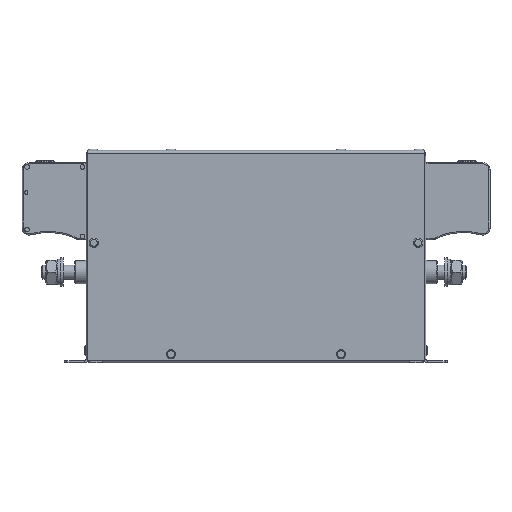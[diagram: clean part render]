
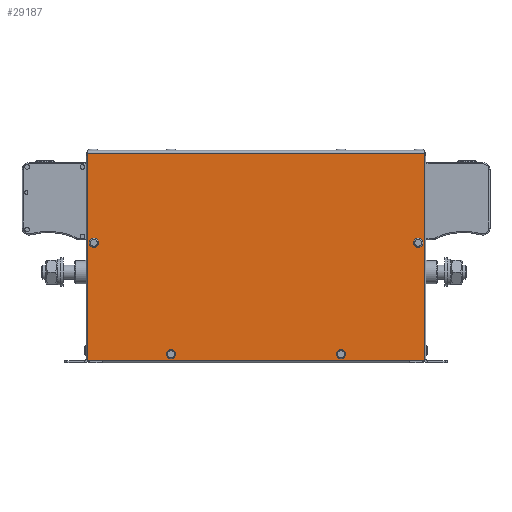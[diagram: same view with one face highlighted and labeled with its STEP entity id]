
A CAD part, front view. The second image highlights one B-rep face of the part: STEP entity #29187.
In plain terms, the highlighted planar face has unit normal (0, -1, 0).
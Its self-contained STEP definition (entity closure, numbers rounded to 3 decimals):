
#2660=LINE('',#48767,#5198);
#2664=LINE('',#48779,#5202);
#2667=LINE('',#48784,#5205);
#2668=LINE('',#48787,#5206);
#5198=VECTOR('',#39216,146.2);
#5202=VECTOR('',#39228,146.2);
#5205=VECTOR('',#39235,238.);
#5206=VECTOR('',#39240,238.);
#6360=FACE_BOUND('',#9777,.T.);
#6361=FACE_BOUND('',#9778,.T.);
#6362=FACE_BOUND('',#9779,.T.);
#6363=FACE_BOUND('',#9780,.T.);
#7819=FACE_OUTER_BOUND('',#9776,.T.);
#9776=EDGE_LOOP('',(#24074,#24075,#24076,#24077));
#9777=EDGE_LOOP('',(#24078));
#9778=EDGE_LOOP('',(#24079));
#9779=EDGE_LOOP('',(#24080));
#9780=EDGE_LOOP('',(#24081));
#10990=CIRCLE('',#31618,3.25);
#11000=CIRCLE('',#31635,3.25);
#11041=CIRCLE('',#31704,3.25);
#11051=CIRCLE('',#31721,3.25);
#13080=VERTEX_POINT('',#47624);
#13090=VERTEX_POINT('',#47681);
#13131=VERTEX_POINT('',#47911);
#13141=VERTEX_POINT('',#47968);
#13397=VERTEX_POINT('',#48764);
#13398=VERTEX_POINT('',#48766);
#13401=VERTEX_POINT('',#48776);
#13402=VERTEX_POINT('',#48778);
#16606=EDGE_CURVE('',#13080,#13080,#10990,.T.);
#16617=EDGE_CURVE('',#13090,#13090,#11000,.T.);
#16662=EDGE_CURVE('',#13131,#13131,#11041,.T.);
#16673=EDGE_CURVE('',#13141,#13141,#11051,.T.);
#17035=EDGE_CURVE('',#13397,#13398,#2660,.T.);
#17041=EDGE_CURVE('',#13401,#13402,#2664,.T.);
#17045=EDGE_CURVE('',#13401,#13398,#2667,.T.);
#17046=EDGE_CURVE('',#13402,#13397,#2668,.T.);
#24074=ORIENTED_EDGE('',*,*,#17045,.T.);
#24075=ORIENTED_EDGE('',*,*,#17035,.F.);
#24076=ORIENTED_EDGE('',*,*,#17046,.F.);
#24077=ORIENTED_EDGE('',*,*,#17041,.F.);
#24078=ORIENTED_EDGE('',*,*,#16606,.T.);
#24079=ORIENTED_EDGE('',*,*,#16617,.T.);
#24080=ORIENTED_EDGE('',*,*,#16662,.T.);
#24081=ORIENTED_EDGE('',*,*,#16673,.T.);
#25940=PLANE('',#31874);
#29187=ADVANCED_FACE('',(#7819,#6360,#6361,#6362,#6363),#25940,.T.);
#31618=AXIS2_PLACEMENT_3D('',#47625,#38383,#38384);
#31635=AXIS2_PLACEMENT_3D('',#47682,#38417,#38418);
#31704=AXIS2_PLACEMENT_3D('',#47912,#38555,#38556);
#31721=AXIS2_PLACEMENT_3D('',#47969,#38589,#38590);
#31874=AXIS2_PLACEMENT_3D('',#48786,#39238,#39239);
#38383=DIRECTION('center_axis',(0.,1.,0.));
#38384=DIRECTION('ref_axis',(-1.,0.,0.));
#38417=DIRECTION('center_axis',(0.,1.,0.));
#38418=DIRECTION('ref_axis',(-1.,0.,0.));
#38555=DIRECTION('center_axis',(0.,1.,0.));
#38556=DIRECTION('ref_axis',(-1.,0.,0.));
#38589=DIRECTION('center_axis',(0.,1.,0.));
#38590=DIRECTION('ref_axis',(-1.,0.,0.));
#39216=DIRECTION('',(0.,0.,1.));
#39228=DIRECTION('',(0.,0.,-1.));
#39235=DIRECTION('',(-1.,0.,0.));
#39238=DIRECTION('center_axis',(0.,-1.,0.));
#39239=DIRECTION('ref_axis',(1.,0.,0.));
#39240=DIRECTION('',(-1.,0.,0.));
#47624=CARTESIAN_POINT('',(-117.75,-90.,10.45));
#47625=CARTESIAN_POINT('Origin',(-114.5,-90.,10.45));
#47681=CARTESIAN_POINT('',(-63.25,-90.,-68.25));
#47682=CARTESIAN_POINT('Origin',(-60.,-90.,-68.25));
#47911=CARTESIAN_POINT('',(111.25,-90.,10.45));
#47912=CARTESIAN_POINT('Origin',(114.5,-90.,10.45));
#47968=CARTESIAN_POINT('',(56.75,-90.,-68.25));
#47969=CARTESIAN_POINT('Origin',(60.,-90.,-68.25));
#48764=CARTESIAN_POINT('',(-119.,-90.,-72.75));
#48766=CARTESIAN_POINT('',(-119.,-90.,73.45));
#48767=CARTESIAN_POINT('',(-119.,-90.,-72.75));
#48776=CARTESIAN_POINT('',(119.,-90.,73.45));
#48778=CARTESIAN_POINT('',(119.,-90.,-72.75));
#48779=CARTESIAN_POINT('',(119.,-90.,73.45));
#48784=CARTESIAN_POINT('',(119.,-90.,73.45));
#48786=CARTESIAN_POINT('Origin',(0.,-90.,1.5));
#48787=CARTESIAN_POINT('',(119.,-90.,-72.75));
